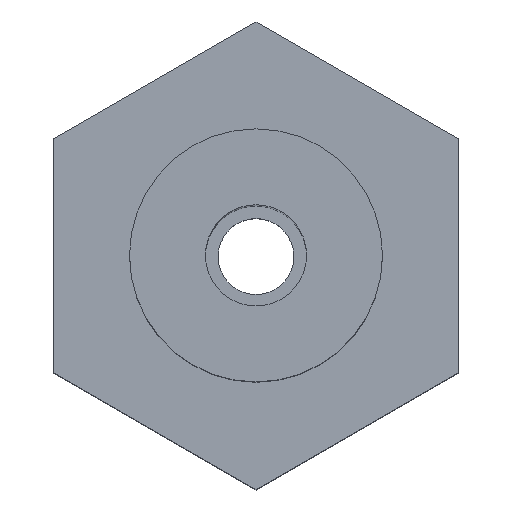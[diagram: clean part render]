
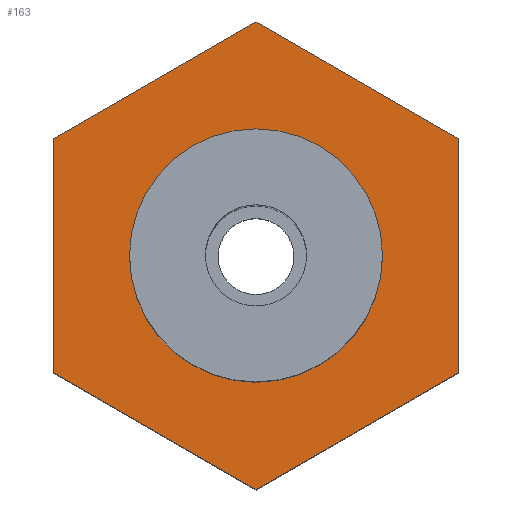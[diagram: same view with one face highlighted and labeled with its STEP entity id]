
A CAD part, top view. The second image highlights one B-rep face of the part: STEP entity #163.
In plain terms, the highlighted planar face has unit normal (0, 0, 1).
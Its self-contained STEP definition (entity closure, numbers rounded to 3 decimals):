
#8 = LINE ( 'NONE', #581, #1368 ) ;
#52 = VECTOR ( 'NONE', #1307, 1000. ) ;
#96 = VERTEX_POINT ( 'NONE', #835 ) ;
#124 = FACE_BOUND ( 'NONE', #136, .T. ) ;
#136 = EDGE_LOOP ( 'NONE', ( #463, #1087 ) ) ;
#146 = LINE ( 'NONE', #447, #246 ) ;
#163 = ADVANCED_FACE ( 'NONE', ( #124, #1260 ), #1211, .T. ) ;
#180 = CIRCLE ( 'NONE', #811, 2.5 ) ;
#242 = ORIENTED_EDGE ( 'NONE', *, *, #245, .F. ) ;
#245 = EDGE_CURVE ( 'NONE', #550, #96, #312, .T. ) ;
#246 = VECTOR ( 'NONE', #417, 1000. ) ;
#312 = LINE ( 'NONE', #1209, #52 ) ;
#335 = VERTEX_POINT ( 'NONE', #773 ) ;
#336 = CARTESIAN_POINT ( 'NONE',  ( 4., 0., 0. ) ) ;
#346 = LINE ( 'NONE', #425, #1236 ) ;
#356 = CARTESIAN_POINT ( 'NONE',  ( -4., -2.309, 0. ) ) ;
#417 = DIRECTION ( 'NONE',  ( 0., 1., 0. ) ) ;
#424 = DIRECTION ( 'NONE',  ( -0.866, 0.5, 0. ) ) ;
#425 = CARTESIAN_POINT ( 'NONE',  ( -2., -3.464, 0. ) ) ;
#436 = VERTEX_POINT ( 'NONE', #543 ) ;
#439 = CARTESIAN_POINT ( 'NONE',  ( 0., 4.619, 0. ) ) ;
#447 = CARTESIAN_POINT ( 'NONE',  ( -4., 0., 0. ) ) ;
#463 = ORIENTED_EDGE ( 'NONE', *, *, #1026, .T. ) ;
#466 = ORIENTED_EDGE ( 'NONE', *, *, #734, .F. ) ;
#475 = CARTESIAN_POINT ( 'NONE',  ( 2.5, 0., 0. ) ) ;
#487 = LINE ( 'NONE', #660, #534 ) ;
#506 = VERTEX_POINT ( 'NONE', #475 ) ;
#534 = VECTOR ( 'NONE', #677, 1000. ) ;
#543 = CARTESIAN_POINT ( 'NONE',  ( -2.5, 0., 0. ) ) ;
#550 = VERTEX_POINT ( 'NONE', #439 ) ;
#557 = LINE ( 'NONE', #336, #1001 ) ;
#581 = CARTESIAN_POINT ( 'NONE',  ( 2., -3.464, 0. ) ) ;
#599 = EDGE_CURVE ( 'NONE', #665, #335, #146, .T. ) ;
#606 = AXIS2_PLACEMENT_3D ( 'NONE', #1282, #1244, #1241 ) ;
#650 = DIRECTION ( 'NONE',  ( 0., -1., 0. ) ) ;
#660 = CARTESIAN_POINT ( 'NONE',  ( -2., 3.464, 0. ) ) ;
#665 = VERTEX_POINT ( 'NONE', #356 ) ;
#677 = DIRECTION ( 'NONE',  ( 0.866, 0.5, 0. ) ) ;
#717 = EDGE_CURVE ( 'NONE', #96, #1128, #557, .T. ) ;
#727 = EDGE_LOOP ( 'NONE', ( #1015, #1345, #1503, #242, #466, #1512 ) ) ;
#732 = DIRECTION ( 'NONE',  ( -0.866, -0.5, 0. ) ) ;
#734 = EDGE_CURVE ( 'NONE', #335, #550, #487, .T. ) ;
#773 = CARTESIAN_POINT ( 'NONE',  ( -4., 2.309, 0. ) ) ;
#811 = AXIS2_PLACEMENT_3D ( 'NONE', #1220, #1138, #1167 ) ;
#835 = CARTESIAN_POINT ( 'NONE',  ( 4., 2.309, 0. ) ) ;
#858 = AXIS2_PLACEMENT_3D ( 'NONE', #1179, #1192, #1201 ) ;
#859 = CIRCLE ( 'NONE', #858, 2.5 ) ;
#1001 = VECTOR ( 'NONE', #650, 1000. ) ;
#1015 = ORIENTED_EDGE ( 'NONE', *, *, #1410, .F. ) ;
#1026 = EDGE_CURVE ( 'NONE', #506, #436, #859, .T. ) ;
#1031 = EDGE_CURVE ( 'NONE', #436, #506, #180, .T. ) ;
#1087 = ORIENTED_EDGE ( 'NONE', *, *, #1031, .T. ) ;
#1128 = VERTEX_POINT ( 'NONE', #1305 ) ;
#1138 = DIRECTION ( 'NONE',  ( 0., 0., -1. ) ) ;
#1158 = VERTEX_POINT ( 'NONE', #1477 ) ;
#1167 = DIRECTION ( 'NONE',  ( 1., 0., 0. ) ) ;
#1179 = CARTESIAN_POINT ( 'NONE',  ( 0., 0., 0. ) ) ;
#1192 = DIRECTION ( 'NONE',  ( 0., 0., -1. ) ) ;
#1201 = DIRECTION ( 'NONE',  ( 1., 0., 0. ) ) ;
#1209 = CARTESIAN_POINT ( 'NONE',  ( 2., 3.464, 0. ) ) ;
#1211 = PLANE ( 'NONE',  #606 ) ;
#1220 = CARTESIAN_POINT ( 'NONE',  ( 0., 0., 0. ) ) ;
#1229 = EDGE_CURVE ( 'NONE', #1128, #1158, #8, .T. ) ;
#1236 = VECTOR ( 'NONE', #424, 1000. ) ;
#1241 = DIRECTION ( 'NONE',  ( 1., 0., 0. ) ) ;
#1244 = DIRECTION ( 'NONE',  ( 0., 0., 1. ) ) ;
#1260 = FACE_OUTER_BOUND ( 'NONE', #727, .T. ) ;
#1282 = CARTESIAN_POINT ( 'NONE',  ( 0., -3., 0. ) ) ;
#1305 = CARTESIAN_POINT ( 'NONE',  ( 4., -2.309, 0. ) ) ;
#1307 = DIRECTION ( 'NONE',  ( 0.866, -0.5, 0. ) ) ;
#1345 = ORIENTED_EDGE ( 'NONE', *, *, #1229, .F. ) ;
#1368 = VECTOR ( 'NONE', #732, 1000. ) ;
#1410 = EDGE_CURVE ( 'NONE', #1158, #665, #346, .T. ) ;
#1477 = CARTESIAN_POINT ( 'NONE',  ( 0., -4.619, 0. ) ) ;
#1503 = ORIENTED_EDGE ( 'NONE', *, *, #717, .F. ) ;
#1512 = ORIENTED_EDGE ( 'NONE', *, *, #599, .F. ) ;
